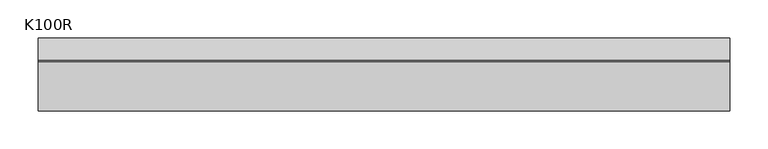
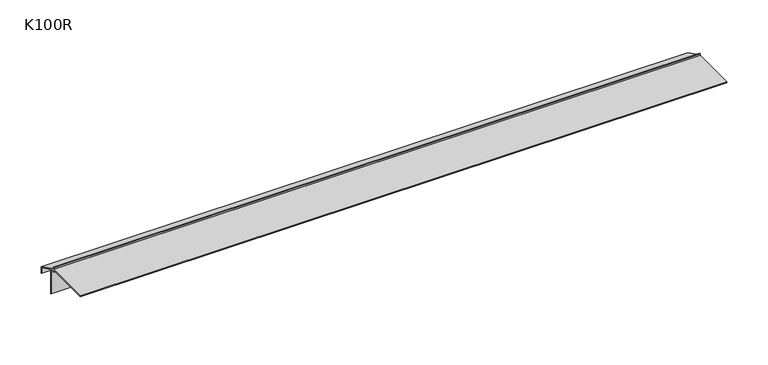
"""IFC4 building model written with IfcOpenShell, lengths in millimetres: proxy geometry, K100R Profil okapowy prosty z rynną : K100R."""

from ifc_helpers import new_model, si_unit, frame, origin, place, context, project, spatial, polyline, outline, extrude, source, transform, mapped, element, save


def k100r_cd817782(model_context):
    return source(origin(), model_context, "Body", "SweptSolid", [
        extrude(outline(polyline([(31.2999993, -17.3500005), (31.2999993, -26.6), (30.0499993, -25.9199265), (30.0499993, -18.1225422), (7.9999999, -7.0975422), (7.9999999, -43.6535517), (6.5000001, -42.1535547), (6.5000001, -6.3475423), (1.1999998, -3.697542), (1.1999998, -6.2999991), (0.0, -6.2999991), (0.0, -3.6), (-64.7000037, -3.6), (-64.7000037, -2.3499993), (0.0, -2.3499993), (0.0, 0.0), (1.2999997, 0.0), (1.2999997, -2.3500002), (31.2999993, -17.3500005)])), frame((0.0, 0.0, 0.0), z_axis=(1.0, 0.0, 0.0), x_axis=(0.0, 1.0, 0.0)), (0.0, 0.0, 1.0), 910.0),
    ])


if __name__ == "__main__":
    model = new_model("IFC4")
    model_context = context("Model", 3, world=origin())
    ifc_project = project(units=[si_unit("LENGTHUNIT", "METRE", prefix="MILLI")], contexts=[model_context])
    site = spatial("IfcSite", under=ifc_project)
    building = spatial("IfcBuilding", under=site)
    placement = place(None, origin())
    k100r_shape = k100r_cd817782(model_context)
    element("IfcBuildingElementProxy", 1, Name="K100R Profil okapowy prosty z rynną : K100R", ObjectType="K100R Profil okapowy prosty z rynną : K100R", at=placement, inside=building, context=model_context, shape_type="MappedRepresentation", body=[
        mapped(k100r_shape, transform((0.0, 0.0, 0.0), x_axis=(1.0, 0.0, 0.0), y_axis=(0.0, 1.0, 0.0), z_axis=(0.0, 0.0, 1.0))),
    ])
    save(model, "model.ifc")
